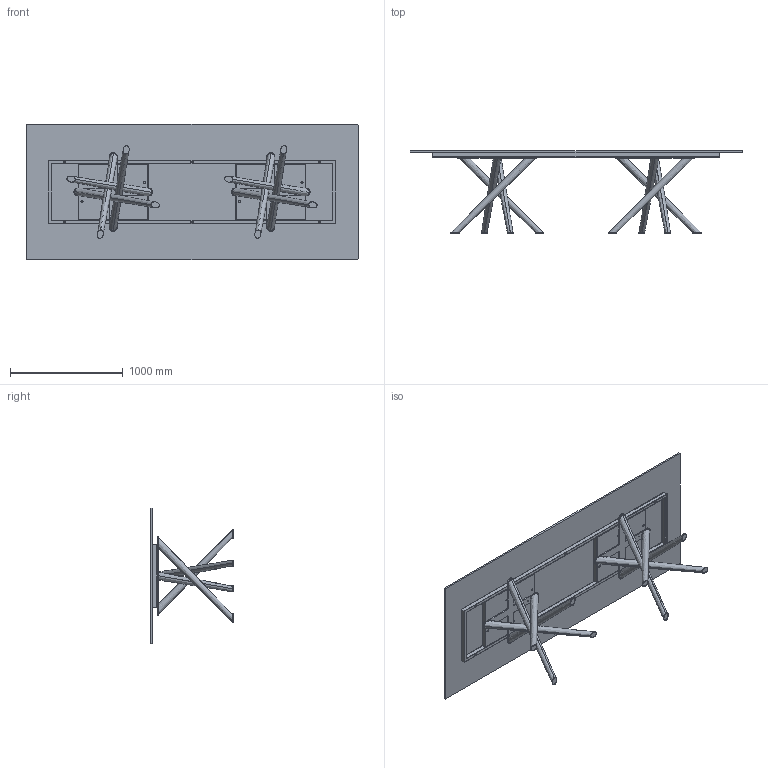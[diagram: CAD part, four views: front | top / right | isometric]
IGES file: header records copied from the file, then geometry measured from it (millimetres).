
Start section: SolidWorks IGES file using analytic representation for surfaces
Global section: file name: Y:\eforma\TECNICO\SOLIDWORKS\E-FORMA\1-TAVOLI\BALY\02 parts\BA29G.IGS; native system: SolidWorks 2022; preprocessor: SolidWorks 2022; author: eforma.tech; date: 240808.081012; units: millimetre
Bounding box: 2950 x 730 x 1200 mm (x, y, z)
Volume: 62457743.6 mm3; surface area: 13594478.2 mm2
Topology: 22 solids, 22 shells, 560 faces, 1374 edges, 852 vertices
Faces by surface type: plane 274, revolution 270, bspline 16
